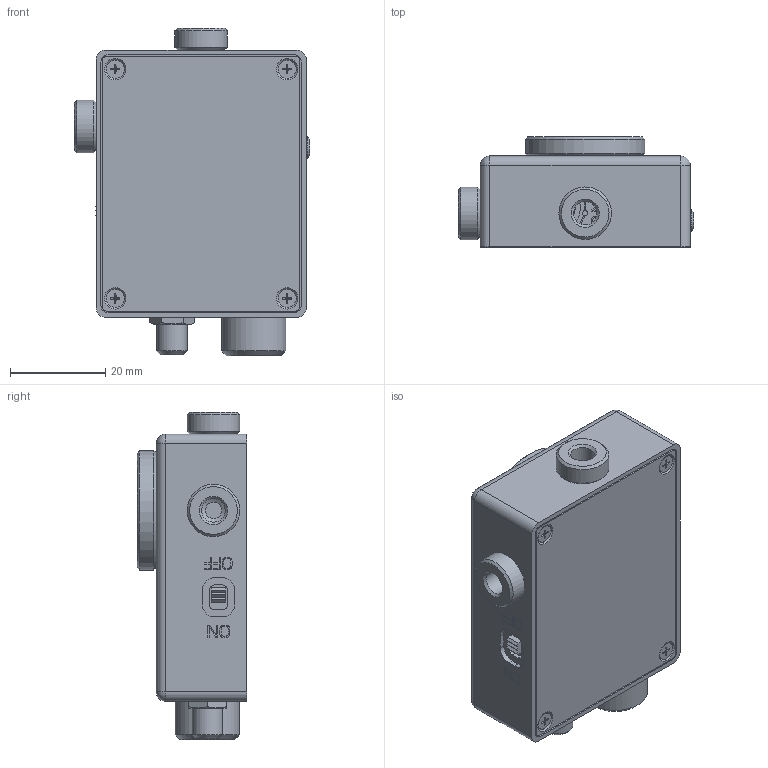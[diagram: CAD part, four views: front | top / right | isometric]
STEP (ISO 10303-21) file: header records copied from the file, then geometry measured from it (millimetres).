
FILE_DESCRIPTION(/* description */ (''),/* implementation_level */ '2;1');
FILE_NAME(/* name */ 'Y:\IvDoronin\- Фотоприемники -\- Модели -\1. Фотоприемники в фотодиодном режиме\OD2.0001-01 МС Фотоприемник_Shrinkwrap OD-03B2.stp',/* time_stamp */ '2020-09-11T11:02:51+03:00',/* author */ ('svlad'),/* organization */ (''),/* preprocessor_version */ 'ST-DEVELOPER v17',/* originating_system */ 'Autodesk Inventor 2019',/* authorisation */ '');
FILE_SCHEMA (('AUTOMOTIVE_DESIGN { 1 0 10303 214 3 1 1 }'));
Products named in the file (1): OD2.0001-01 МС Фотоприемник_
Shrinkwrap OD-03B2
Bounding box: 49.24 x 23 x 68.54 mm (x, y, z)
Volume: 49042.4 mm3; surface area: 11945.9 mm2
Topology: 2 solids, 2 shells, 1519 faces, 4148 edges, 2767 vertices
Faces by surface type: plane 841, bspline 497, cylinder 102, cone 58, torus 17, sphere 4
Full cylindrical faces by diameter (mm): 1.601 x1, 3 x1, 3.8 x4, 4.5 x1, 4.7 x1, 4.917 x2, 5 x2, 6.4 x2, 7 x1, 10.2 x1, 11 x2, 12 x1, 12.5 x1, 12.918 x1, 13.5 x1, 15.8 x1, 16 x1, 19 x1, 25 x1
Entity records: 58298 total; most frequent: CARTESIAN_POINT 21645, ORIENTED_EDGE 8288, DIRECTION 5338, EDGE_CURVE 4144, VERTEX_POINT 2767, LINE 2602, VECTOR 2602, EDGE_LOOP 1697
